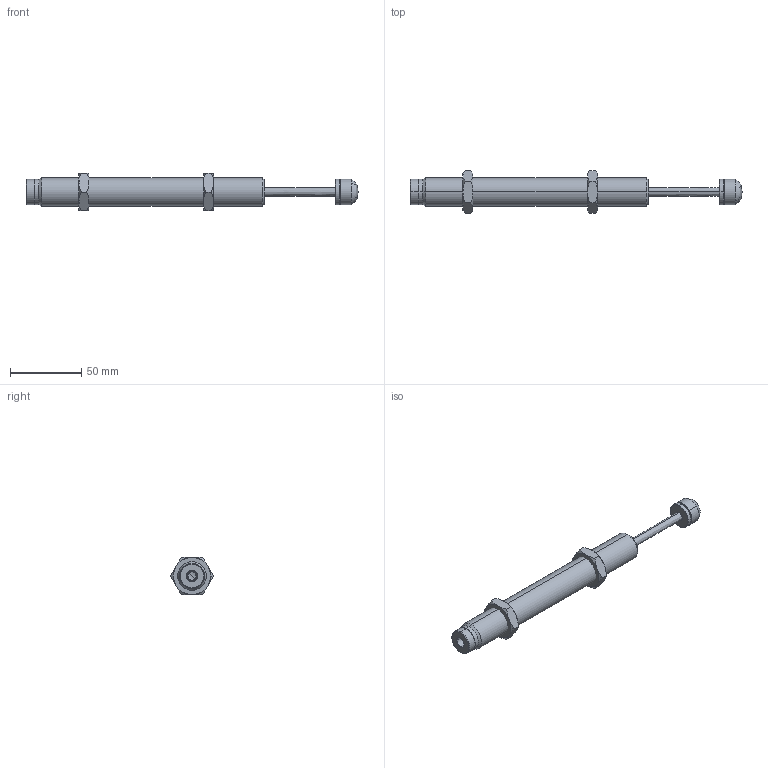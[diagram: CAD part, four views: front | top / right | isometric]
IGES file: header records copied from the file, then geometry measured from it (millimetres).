
Start section: SolidWorks IGES file using analytic representation for surfaces
Global section: file name: D:\IGS跡宒\AC2050(P2.0).IGS,1; native system: 5HSolidWorks 2013; preprocessor: SolidWorks 2013; author: Administrator; date: 160412.105855; units: inch
Bounding box: 232.8 x 30.02 x 26 mm (x, y, z)
Surface area: 17402.2 mm2 (no closed solid volume)
Topology: 0 solids, 0 shells, 100 faces, 1520 edges, 1519 vertices
Faces by surface type: revolution 76, bspline 24
